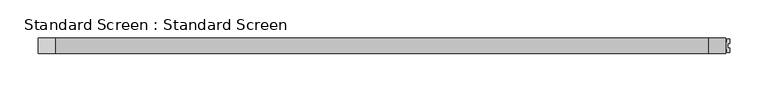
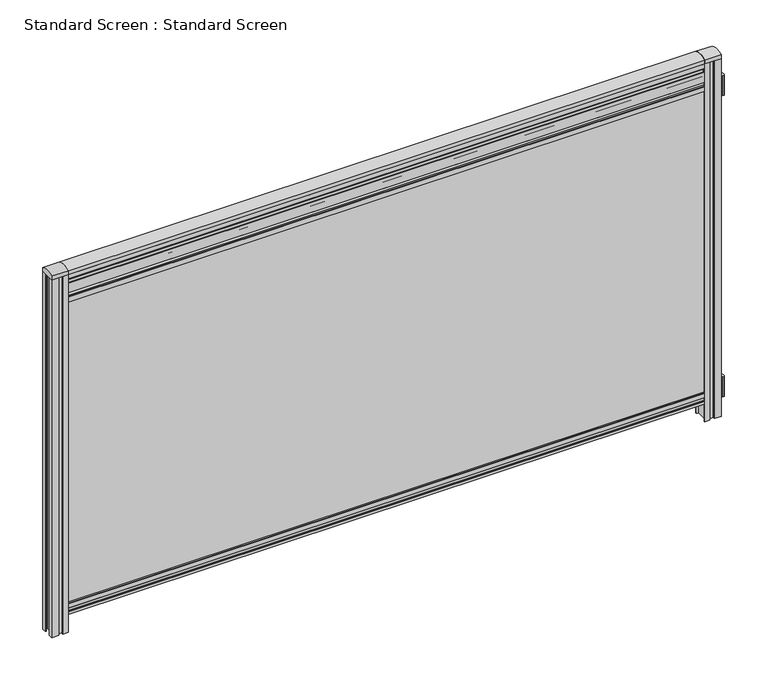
"""IFC4 building model written with IfcOpenShell, lengths in millimetres: furniture geometry, Standard Screen : Standard Screen."""

from ifc_helpers import new_model, si_unit, point, frame, frame_2d, origin, origin_with_axes, place, context, project, spatial, polyline, circle_curve, trimmed, segment, composite_curve, outline, extrude, source, transform, mapped, element, save


def standard_screen_standard_screen_f20f7902(model_context):
    return source(origin(), model_context, "Body", "SweptSolid", [
        extrude(outline(composite_curve([segment(polyline([(455.3250611, 7.9660188), (455.3250611, 3.0000008), (452.8561933, 3.0000008)]), True, "CONTINUOUS"), segment(trimmed(circle_curve(frame_2d((452.8561933, 2.4688337)), 0.5311671), [point((452.8561933, 3.0000008))], [point((452.3250262, 2.4688337))], True, "CARTESIAN"), True, "CONTINUOUS"), segment(polyline([(452.3250262, 2.4688337), (452.3250262, -2.4657623)]), True, "CONTINUOUS"), segment(trimmed(circle_curve(frame_2d((452.859263, -2.4657623)), 0.5342368), [point((452.3250262, -2.4657623))], [point((452.859263, -2.9999991))], True, "CARTESIAN"), True, "CONTINUOUS"), segment(polyline([(452.859263, -2.9999991), (455.3250611, -2.9999991), (455.3250611, -7.9537884)]), True, "CONTINUOUS"), segment(trimmed(circle_curve(frame_2d((454.3288505, -7.9537884)), 0.9962106), [point((455.3250611, -7.9537884))], [point((454.3288505, -8.949999))], False, "CARTESIAN"), True, "CONTINUOUS"), segment(polyline([(454.3288505, -8.949999), (452.5299708, -8.949999)]), True, "CONTINUOUS"), segment(trimmed(circle_curve(frame_2d((452.5299708, -7.9950275)), 0.9549715), [point((452.5299708, -8.949999))], [point((451.5749993, -7.9950275))], False, "CARTESIAN"), True, "CONTINUOUS"), segment(polyline([(451.5749993, -7.9950275), (451.5749993, -4.4499992), (448.6750309, -4.4499992), (448.6750309, -7.9556823)]), True, "CONTINUOUS"), segment(trimmed(circle_curve(frame_2d((447.6807142, -7.9556823)), 0.9943167), [point((448.6750309, -7.9556823))], [point((447.6807142, -8.949999))], False, "CARTESIAN"), True, "CONTINUOUS"), segment(polyline([(447.6807142, -8.949999), (445.8925746, -8.949999)]), True, "CONTINUOUS"), segment(trimmed(circle_curve(frame_2d((445.8925746, -7.9824663)), 0.9675328), [point((445.8925746, -8.949999))], [point((444.9250418, -7.9824663))], False, "CARTESIAN"), True, "CONTINUOUS"), segment(polyline([(444.9250418, -7.9824663), (444.9250418, -2.9999991), (447.4164727, -2.9999991)]), True, "CONTINUOUS"), segment(trimmed(circle_curve(frame_2d((447.4164727, -2.4914678)), 0.5085314), [point((447.4164727, -2.9999991))], [point((447.925004, -2.4914678))], True, "CARTESIAN"), True, "CONTINUOUS"), segment(polyline([(447.925004, -2.4914678), (447.925004, 2.4541047)]), True, "CONTINUOUS"), segment(trimmed(circle_curve(frame_2d((447.3791079, 2.4541047)), 0.5458961), [point((447.925004, 2.4541047))], [point((447.3791079, 3.0000008))], True, "CARTESIAN"), True, "CONTINUOUS"), segment(polyline([(447.3791079, 3.0000008), (444.9250418, 3.0000008), (444.9250418, 7.9753928)]), True, "CONTINUOUS"), segment(trimmed(circle_curve(frame_2d((445.8996501, 7.9753928)), 0.9746083), [point((444.9250418, 7.9753928))], [point((445.8996501, 8.950001))], False, "CARTESIAN"), True, "CONTINUOUS"), segment(polyline([(445.8996501, 8.950001), (447.7072587, 8.950001)]), True, "CONTINUOUS"), segment(trimmed(circle_curve(frame_2d((447.7072587, 7.9822288)), 0.9677722), [point((447.7072587, 8.950001))], [point((448.6750309, 7.9822288))], False, "CARTESIAN"), True, "CONTINUOUS"), segment(polyline([(448.6750309, 7.9822288), (448.6750309, 4.4500009), (451.5749993, 4.4500009), (451.5749993, 7.913217)]), True, "CONTINUOUS"), segment(trimmed(circle_curve(frame_2d((452.6117833, 7.913217)), 1.036784), [point((451.5749993, 7.913217))], [point((452.6117833, 8.950001))], False, "CARTESIAN"), True, "CONTINUOUS"), segment(polyline([(452.6117833, 8.950001), (454.3410788, 8.950001)]), True, "CONTINUOUS"), segment(trimmed(circle_curve(frame_2d((454.3410788, 7.9660188)), 0.9839823), [point((454.3410788, 8.950001))], [point((455.3250611, 7.9660188))], False, "CARTESIAN"), True, "CONTINUOUS")], self_intersect=False)), frame((0.0, 0.0, 454.3643446), z_axis=(0.0, 0.0, 1.0), x_axis=(1.0, 0.0, 0.0)), (0.0, 0.0, 1.0), 28.7499893),
        extrude(outline(composite_curve([segment(polyline([(455.3250611, 7.9660188), (455.3250611, 3.0000008), (452.8561933, 3.0000008)]), True, "CONTINUOUS"), segment(trimmed(circle_curve(frame_2d((452.8561933, 2.4688337)), 0.5311671), [point((452.8561933, 3.0000008))], [point((452.3250262, 2.4688337))], True, "CARTESIAN"), True, "CONTINUOUS"), segment(polyline([(452.3250262, 2.4688337), (452.3250262, -2.4657623)]), True, "CONTINUOUS"), segment(trimmed(circle_curve(frame_2d((452.859263, -2.4657623)), 0.5342368), [point((452.3250262, -2.4657623))], [point((452.859263, -2.9999991))], True, "CARTESIAN"), True, "CONTINUOUS"), segment(polyline([(452.859263, -2.9999991), (455.3250611, -2.9999991), (455.3250611, -7.9537884)]), True, "CONTINUOUS"), segment(trimmed(circle_curve(frame_2d((454.3288505, -7.9537884)), 0.9962106), [point((455.3250611, -7.9537884))], [point((454.3288505, -8.949999))], False, "CARTESIAN"), True, "CONTINUOUS"), segment(polyline([(454.3288505, -8.949999), (452.5299708, -8.949999)]), True, "CONTINUOUS"), segment(trimmed(circle_curve(frame_2d((452.5299708, -7.9950275)), 0.9549715), [point((452.5299708, -8.949999))], [point((451.5749993, -7.9950275))], False, "CARTESIAN"), True, "CONTINUOUS"), segment(polyline([(451.5749993, -7.9950275), (451.5749993, -4.4499992), (448.6750309, -4.4499992), (448.6750309, -7.9556823)]), True, "CONTINUOUS"), segment(trimmed(circle_curve(frame_2d((447.6807142, -7.9556823)), 0.9943167), [point((448.6750309, -7.9556823))], [point((447.6807142, -8.949999))], False, "CARTESIAN"), True, "CONTINUOUS"), segment(polyline([(447.6807142, -8.949999), (445.8925746, -8.949999)]), True, "CONTINUOUS"), segment(trimmed(circle_curve(frame_2d((445.8925746, -7.9824663)), 0.9675328), [point((445.8925746, -8.949999))], [point((444.9250418, -7.9824663))], False, "CARTESIAN"), True, "CONTINUOUS"), segment(polyline([(444.9250418, -7.9824663), (444.9250418, -2.9999991), (447.4164727, -2.9999991)]), True, "CONTINUOUS"), segment(trimmed(circle_curve(frame_2d((447.4164727, -2.4914678)), 0.5085314), [point((447.4164727, -2.9999991))], [point((447.925004, -2.4914678))], True, "CARTESIAN"), True, "CONTINUOUS"), segment(polyline([(447.925004, -2.4914678), (447.925004, 2.4541047)]), True, "CONTINUOUS"), segment(trimmed(circle_curve(frame_2d((447.3791079, 2.4541047)), 0.5458961), [point((447.925004, 2.4541047))], [point((447.3791079, 3.0000008))], True, "CARTESIAN"), True, "CONTINUOUS"), segment(polyline([(447.3791079, 3.0000008), (444.9250418, 3.0000008), (444.9250418, 7.9753928)]), True, "CONTINUOUS"), segment(trimmed(circle_curve(frame_2d((445.8996501, 7.9753928)), 0.9746083), [point((444.9250418, 7.9753928))], [point((445.8996501, 8.950001))], False, "CARTESIAN"), True, "CONTINUOUS"), segment(polyline([(445.8996501, 8.950001), (447.7072587, 8.950001)]), True, "CONTINUOUS"), segment(trimmed(circle_curve(frame_2d((447.7072587, 7.9822288)), 0.9677722), [point((447.7072587, 8.950001))], [point((448.6750309, 7.9822288))], False, "CARTESIAN"), True, "CONTINUOUS"), segment(polyline([(448.6750309, 7.9822288), (448.6750309, 4.4500009), (451.5749993, 4.4500009), (451.5749993, 7.913217)]), True, "CONTINUOUS"), segment(trimmed(circle_curve(frame_2d((452.6117833, 7.913217)), 1.036784), [point((451.5749993, 7.913217))], [point((452.6117833, 8.950001))], False, "CARTESIAN"), True, "CONTINUOUS"), segment(polyline([(452.6117833, 8.950001), (454.3410788, 8.950001)]), True, "CONTINUOUS"), segment(trimmed(circle_curve(frame_2d((454.3410788, 7.9660188)), 0.9839823), [point((454.3410788, 8.950001))], [point((455.3250611, 7.9660188))], False, "CARTESIAN"), True, "CONTINUOUS")], self_intersect=False)), frame((0.0, 0.0, 25.8857019), z_axis=(0.0, 0.0, 1.0), x_axis=(1.0, 0.0, 0.0)), (0.0, 0.0, 1.0), 28.7499893),
        extrude(outline(polyline([(2.9999997, 468.5000011), (7.4999998, 468.5000011), (7.4999998, 41.0000047), (1.4999993, 41.0000047), (1.4999993, 56.0000021), (-1.5000004, 56.0000021), (-1.5000004, 41.0000047), (-7.5000007, 41.0000047), (-7.5000007, 468.5000011), (-3.0000003, 468.5000011), (-3.0000003, 445.4786457), (2.9999997, 445.4786457), (2.9999997, 468.5000011)])), frame((-427.9999984, 0.0, 0.0), z_axis=(1.0, 0.0, 0.0), x_axis=(0.0, 1.0, 0.0)), (0.0, 0.0, 1.0), 855.9999968),
        extrude(outline(composite_curve([segment(polyline([(9.1499968, 33.5000241), (7.9499769, 33.5000241), (7.9499769, 36.8000362), (2.2528409, 36.8000362)]), True, "CONTINUOUS"), segment(trimmed(circle_curve(frame_2d((0.1077675, 34.9875299)), 2.8082947), [point((2.2528409, 36.8000362))], [point((2.8960112, 34.6525437))], False, "CARTESIAN"), True, "CONTINUOUS"), segment(trimmed(circle_curve(frame_2d((1.9633241, 32.8984143)), 1.9866744), [point((2.8960112, 34.6525437))], [point((3.9499985, 32.8984143))], False, "CARTESIAN"), True, "CONTINUOUS"), segment(polyline([(3.9499985, 32.8984143), (3.9499985, 29.5000616)]), True, "CONTINUOUS"), segment(trimmed(circle_curve(frame_2d((0.5724057, 27.6836344)), 3.8350412), [point((3.9499985, 29.5000616))], [point((3.7920505, 25.6000249))], False, "CARTESIAN"), True, "CONTINUOUS"), segment(polyline([(3.7920505, 25.6000249), (7.9499769, 25.6000249), (7.9499769, 28.0000351), (9.1499968, 28.0000351), (9.1499968, 24.5000216), (2.8499952, 24.5000216), (2.8499952, 26.3656486)]), True, "CONTINUOUS"), segment(trimmed(circle_curve(frame_2d((0.4891584, 27.6967971)), 2.7102595), [point((2.8499952, 26.3656486))], [point((2.7499786, 29.1915208))], True, "CARTESIAN"), True, "CONTINUOUS"), segment(polyline([(2.7499786, 29.1915208), (2.7499786, 33.0623263), (1.1043975, 33.8775106)]), True, "CONTINUOUS"), segment(trimmed(circle_curve(frame_2d((-9e-07, 35.0462662)), 1.6080067), [point((1.1043975, 33.8775106))], [point((-1.1043986, 33.8775101))], True, "CARTESIAN"), True, "CONTINUOUS"), segment(polyline([(-1.1043986, 33.8775101), (-2.7499786, 33.0623263), (-2.7499786, 29.1915208)]), True, "CONTINUOUS"), segment(trimmed(circle_curve(frame_2d((-0.4891584, 27.6967971)), 2.7102595), [point((-2.7499786, 29.1915208))], [point((-2.8499952, 26.3656486))], True, "CARTESIAN"), True, "CONTINUOUS"), segment(polyline([(-2.8499952, 26.3656486), (-2.8499952, 24.5000216), (-9.1499968, 24.5000216), (-9.1499968, 28.0000351), (-7.9499769, 28.0000351), (-7.9499769, 25.6000249), (-3.7920505, 25.6000249)]), True, "CONTINUOUS"), segment(trimmed(circle_curve(frame_2d((-0.5724057, 27.6836344)), 3.8350412), [point((-3.7920505, 25.6000249))], [point((-3.9499985, 29.5000616))], False, "CARTESIAN"), True, "CONTINUOUS"), segment(polyline([(-3.9499985, 29.5000616), (-3.9499985, 32.8984143)]), True, "CONTINUOUS"), segment(trimmed(circle_curve(frame_2d((-1.9633241, 32.8984143)), 1.9866744), [point((-3.9499985, 32.8984143))], [point((-2.8960112, 34.6525437))], False, "CARTESIAN"), True, "CONTINUOUS"), segment(trimmed(circle_curve(frame_2d((-0.1077675, 34.9875299)), 2.8082947), [point((-2.8960112, 34.6525437))], [point((-2.2528409, 36.8000362))], False, "CARTESIAN"), True, "CONTINUOUS"), segment(polyline([(-2.2528409, 36.8000362), (-7.9499769, 36.8000362), (-7.9499769, 33.5000241), (-9.1499968, 33.5000241), (-9.1499968, 39.2000441), (-7.9499769, 39.2000441), (-7.9499769, 38.0000265), (-0.9999878, 38.0000265), (-0.9999878, 49.9299473)]), True, "CONTINUOUS"), segment(trimmed(circle_curve(frame_2d((-9e-07, 49.3777063)), 1.1423415), [point((-0.9999878, 49.9299473))], [point((0.9999878, 49.9299442))], False, "CARTESIAN"), True, "CONTINUOUS"), segment(polyline([(0.9999878, 49.9299442), (0.9999878, 38.0000265), (7.9499769, 38.0000265), (7.9499769, 39.2000441), (9.1499968, 39.2000441), (9.1499968, 33.5000241)]), True, "CONTINUOUS")], self_intersect=False)), frame((-430.4999775, 0.0, 0.0), z_axis=(1.0, 0.0, 0.0), x_axis=(0.0, 1.0, 0.0)), (0.0, 0.0, 1.0), 860.9999551),
        extrude(outline(composite_curve([segment(polyline([(1.549986, 506.6831947), (1.549986, 509.0), (2.7499991, 509.0), (2.7499991, 507.0358452)]), True, "CONTINUOUS"), segment(trimmed(circle_curve(frame_2d((0.6713989, 505.7794875)), 2.4287884), [point((2.7499991, 507.0358452))], [point((2.57901, 504.2761469))], False, "CARTESIAN"), True, "CONTINUOUS"), segment(polyline([(2.57901, 504.2761469), (2.4052283, 502.6188286)]), True, "CONTINUOUS"), segment(trimmed(circle_curve(frame_2d((1.8024298, 502.5896911)), 0.6035023), [point((2.4052283, 502.6188286))], [point((1.2022181, 502.6526268))], False, "CARTESIAN"), True, "CONTINUOUS"), segment(polyline([(1.2022181, 502.6526268), (1.4276597, 504.8026409)]), True, "CONTINUOUS"), segment(trimmed(circle_curve(frame_2d((0.6111034, 505.8000117)), 1.2889968), [point((1.4276597, 504.8026409))], [point((1.549986, 506.6831947))], True, "CARTESIAN"), True, "CONTINUOUS")], self_intersect=False)), frame((-430.4999775, 0.0, 0.0), z_axis=(1.0, 0.0, 0.0), x_axis=(0.0, 1.0, 0.0)), (0.0, 0.0, 1.0), 860.9999551),
        extrude(outline(composite_curve([segment(trimmed(circle_curve(frame_2d((-0.6111034, 505.8000117)), 1.2889968), [point((-1.549986, 506.6831947))], [point((-1.4276597, 504.8026409))], True, "CARTESIAN"), True, "CONTINUOUS"), segment(polyline([(-1.4276597, 504.8026409), (-1.2022181, 502.6526268)]), True, "CONTINUOUS"), segment(trimmed(circle_curve(frame_2d((-1.8024298, 502.5896911)), 0.6035023), [point((-1.2022181, 502.6526268))], [point((-2.4052283, 502.6188286))], False, "CARTESIAN"), True, "CONTINUOUS"), segment(polyline([(-2.4052283, 502.6188286), (-2.57901, 504.2761469)]), True, "CONTINUOUS"), segment(trimmed(circle_curve(frame_2d((-0.6713989, 505.7794875)), 2.4287884), [point((-2.57901, 504.2761469))], [point((-2.7499991, 507.0358452))], False, "CARTESIAN"), True, "CONTINUOUS"), segment(polyline([(-2.7499991, 507.0358452), (-2.7499991, 509.0), (-1.549986, 509.0), (-1.549986, 506.6831947)]), True, "CONTINUOUS")], self_intersect=False)), frame((-430.4999775, 0.0, 0.0), z_axis=(1.0, 0.0, 0.0), x_axis=(0.0, 1.0, 0.0)), (0.0, 0.0, 1.0), 860.9999551),
        extrude(outline(composite_curve([segment(polyline([(7.8000076, 502.0000504), (7.8000076, 507.8000597), (4.5999997, 507.8000597), (4.5999997, 503.1642962), (3.3238569, 500.9538933), (2.4222393, 499.2511629)]), True, "CONTINUOUS"), segment(trimmed(circle_curve(frame_2d((0.0, 497.4942518)), 2.9923201), [point((2.4222393, 499.2511629))], [point((1.0260604, 494.683348))], False, "CARTESIAN"), True, "CONTINUOUS"), segment(polyline([(1.0260604, 494.683348), (1.0260604, 489.7500713), (7.8000076, 489.7500713), (7.8000076, 496.0000532), (9.0000082, 496.0000532), (9.0000082, 482.0000357), (7.8000076, 482.0000357), (7.8000076, 488.2500175), (1.0260604, 488.2500175), (1.0260604, 483.3191412)]), True, "CONTINUOUS"), segment(trimmed(circle_curve(frame_2d((0.0, 480.5073141)), 2.9931876), [point((1.0260604, 483.3191412))], [point((2.4222393, 478.748926))], False, "CARTESIAN"), True, "CONTINUOUS"), segment(polyline([(2.4222393, 478.748926), (3.3238569, 477.0461956), (4.5999997, 474.8357927), (4.5999997, 470.2000292), (7.8000076, 470.2000292), (7.8000076, 476.0000385), (9.0000082, 476.0000385), (9.0000082, 469.0000298), (3.3999991, 469.0000298), (3.3999991, 474.5143007), (2.5421924, 476.0000385), (1.7271089, 476.0000385), (1.1490657, 479.5358692)]), True, "CONTINUOUS"), segment(trimmed(circle_curve(frame_2d((0.0, 480.5074601)), 1.5047727), [point((1.1490657, 479.5358692))], [point((-1.1490657, 479.5358692))], True, "CARTESIAN"), True, "CONTINUOUS"), segment(polyline([(-1.1490657, 479.5358692), (-1.7271089, 476.0000385), (-2.5421924, 476.0000385), (-3.3999991, 474.5143007), (-3.3999991, 469.0000298), (-9.0000082, 469.0000298), (-9.0000082, 476.0000385), (-7.8000076, 476.0000385), (-7.8000076, 470.2000292), (-4.5999997, 470.2000292), (-4.5999997, 474.8357927), (-3.3238569, 477.0461956), (-2.4222393, 478.748926)]), True, "CONTINUOUS"), segment(trimmed(circle_curve(frame_2d((0.0, 480.5073141)), 2.9931876), [point((-2.4222393, 478.748926))], [point((-1.0000003, 483.3285144))], False, "CARTESIAN"), True, "CONTINUOUS"), segment(polyline([(-1.0000003, 483.3285144), (-1.0000003, 488.2500175), (-7.8000091, 488.2500175), (-7.8000091, 482.0000357), (-9.0000091, 482.0000357), (-9.0000091, 496.0000532), (-7.8000091, 496.0000532), (-7.8000091, 489.7500713), (-1.0000003, 489.7500713), (-1.0000003, 494.6739718)]), True, "CONTINUOUS"), segment(trimmed(circle_curve(frame_2d((0.0, 497.4942518)), 2.9923201), [point((-1.0000003, 494.6739718))], [point((-2.4222393, 499.2511629))], False, "CARTESIAN"), True, "CONTINUOUS"), segment(polyline([(-2.4222393, 499.2511629), (-3.3238569, 500.9538933), (-4.5999997, 503.1642962), (-4.5999997, 507.8000597), (-7.8000076, 507.8000597), (-7.8000076, 502.0000504), (-9.0000082, 502.0000504), (-9.0000082, 509.0), (-3.3999991, 509.0), (-3.3999991, 503.4857882), (-2.5421924, 502.0000504), (-1.7271089, 502.0000504), (-1.0656179, 498.5476448)]), True, "CONTINUOUS"), segment(trimmed(circle_curve(frame_2d((0.0, 497.4966596)), 1.4967002), [point((-1.0656179, 498.5476448))], [point((1.0656179, 498.5476448))], True, "CARTESIAN"), True, "CONTINUOUS"), segment(polyline([(1.0656179, 498.5476448), (1.7271089, 502.0000504), (2.5421924, 502.0000504), (3.3999991, 503.4857882), (3.3999991, 509.0), (9.0000082, 509.0), (9.0000082, 502.0000504), (7.8000076, 502.0000504)]), True, "CONTINUOUS")], self_intersect=False)), frame((-430.4999775, 0.0, 0.0), z_axis=(1.0, 0.0, 0.0), x_axis=(0.0, 1.0, 0.0)), (0.0, 0.0, 1.0), 860.9999551),
        extrude(outline(composite_curve([segment(polyline([(10.2500284, 514.328644), (10.2500284, 509.0), (-10.2500284, 509.0), (-10.2500284, 514.328644)]), True, "CONTINUOUS"), segment(trimmed(circle_curve(frame_2d((0.0, 495.9995742)), 21.0004258), [point((-10.2500284, 514.328644))], [point((10.2500284, 514.328644))], False, "CARTESIAN"), True, "CONTINUOUS")], self_intersect=False)), frame((-450.0, 0.0, 0.0), z_axis=(1.0, 0.0, 0.0), x_axis=(0.0, 1.0, 0.0)), (0.0, 0.0, 1.0), 22.0000016),
        extrude(outline(composite_curve([segment(polyline([(10.2500284, 514.328644), (10.2500284, 509.0), (-10.2500284, 509.0), (-10.2500284, 514.328644)]), True, "CONTINUOUS"), segment(trimmed(circle_curve(frame_2d((0.0, 495.9995742)), 21.0004258), [point((-10.2500284, 514.328644))], [point((10.2500284, 514.328644))], False, "CARTESIAN"), True, "CONTINUOUS")], self_intersect=False)), frame((427.9999984, 0.0, 0.0), z_axis=(1.0, 0.0, 0.0), x_axis=(0.0, 1.0, 0.0)), (0.0, 0.0, 1.0), 22.0000016),
        extrude(outline(composite_curve([segment(polyline([(-10.2500284, 509.0), (-10.2500284, 514.328644)]), True, "CONTINUOUS"), segment(trimmed(circle_curve(frame_2d((0.0, 495.9995742)), 21.0004258), [point((-10.2500284, 514.328644))], [point((10.2500284, 514.328644))], False, "CARTESIAN"), True, "CONTINUOUS"), segment(polyline([(10.2500284, 514.328644), (10.2500284, 509.0), (-10.2500284, 509.0)]), True, "CONTINUOUS")], self_intersect=False), holes=[composite_curve([segment(polyline([(-9.0499809, 510.2000586), (9.0499802, 510.2000586), (9.0499802, 513.6108242)]), True, "CONTINUOUS"), segment(trimmed(circle_curve(frame_2d((-4e-07, 495.9993192)), 19.8006883), [point((9.0499802, 513.6108242))], [point((-9.0499809, 513.6108242))], True, "CARTESIAN"), True, "CONTINUOUS"), segment(polyline([(-9.0499809, 513.6108242), (-9.0499809, 510.2000586)]), True, "CONTINUOUS")], self_intersect=False)]), frame((-427.9999984, 0.0, 0.0), z_axis=(1.0, 0.0, 0.0), x_axis=(0.0, 1.0, 0.0)), (0.0, 0.0, 1.0), 855.9999968),
        extrude(outline(polyline([(-443.5500127, 8.750011), (-440.950013, 8.750011), (-440.950013, 7.1000106), (-434.6500001, 7.1000106), (-434.6500001, 8.750011), (-432.0500123, 8.750011), (-432.0500123, 5.7500124), (-443.5500127, 5.7500124), (-443.5500127, 8.750011)])), origin_with_axes(), (0.0, 0.0, 1.0), 509.0),
        extrude(outline(polyline([(-443.5500127, -8.750011), (-443.5500127, -5.7500124), (-432.0500123, -5.7500124), (-432.0500123, -8.750011), (-434.6500001, -8.750011), (-434.6500001, -7.1000106), (-440.950013, -7.1000106), (-440.950013, -8.750011), (-443.5500127, -8.750011)])), origin_with_axes(), (0.0, 0.0, 1.0), 509.0),
        extrude(outline(polyline([(443.5500127, 8.750011), (443.5500127, 5.7500124), (432.0500123, 5.7500124), (432.0500123, 8.750011), (434.6500001, 8.750011), (434.6500001, 7.1000106), (440.950013, 7.1000106), (440.950013, 8.750011), (443.5500127, 8.750011)])), origin_with_axes(), (0.0, 0.0, 1.0), 509.0),
        extrude(outline(polyline([(443.5500127, -8.750011), (440.950013, -8.750011), (440.950013, -7.1000106), (434.6500001, -7.1000106), (434.6500001, -8.750011), (432.0500123, -8.750011), (432.0500123, -5.7500124), (443.5500127, -5.7500124), (443.5500127, -8.750011)])), origin_with_axes(), (0.0, 0.0, 1.0), 509.0),
        extrude(outline(polyline([(-450.0, 10.2500284), (-440.500003, 10.2500284), (-440.500003, 9.0499961), (-443.6000108, 9.0499961), (-443.6000108, 5.7500124), (-431.9999938, 5.7500124), (-431.9999938, 9.0499961), (-435.000014, 9.0499961), (-435.000014, 10.2500284), (-427.9999984, 10.2500284), (-427.9999984, 9.0499961), (-430.8000023, 9.0499961), (-430.8000023, -9.0499985), (-427.9999984, -9.0499985), (-427.9999984, -10.2500284), (-435.000014, -10.2500284), (-435.000014, -9.0499985), (-431.9999938, -9.0499985), (-431.9999938, -5.7500132), (-443.6000108, -5.7500132), (-443.6000108, -9.0499985), (-440.500003, -9.0499985), (-440.500003, -10.2500284), (-450.0, -10.2500284), (-450.0, -4.8000011), (-448.8000095, -4.8000011), (-448.8000095, -9.0499985), (-444.8000012, -9.0499985), (-444.8000012, 9.0499961), (-448.8000095, 9.0499961), (-448.8000095, 4.8), (-450.0, 4.8), (-450.0, 10.2500284)])), origin_with_axes(), (0.0, 0.0, 1.0), 509.0),
        extrude(outline(polyline([(450.0, 10.2500284), (450.0, 4.8), (448.8000095, 4.8), (448.8000095, 9.0499961), (444.8000012, 9.0499961), (444.8000012, -9.0499985), (448.8000095, -9.0499985), (448.8000095, -4.8000011), (450.0, -4.8000011), (450.0, -10.2500284), (440.500003, -10.2500284), (440.500003, -9.0499985), (443.6000108, -9.0499985), (443.6000108, -5.7500132), (431.9999938, -5.7500132), (431.9999938, -9.0499985), (435.000014, -9.0499985), (435.000014, -10.2500284), (427.9999984, -10.2500284), (427.9999984, -9.0499985), (430.800016, -9.0499985), (430.800016, 9.0499961), (427.9999984, 9.0499961), (427.9999984, 10.2500284), (435.000014, 10.2500284), (435.000014, 9.0499961), (431.9999938, 9.0499961), (431.9999938, 5.7500124), (443.6000108, 5.7500124), (443.6000108, 9.0499961), (440.500003, 9.0499961), (440.500003, 10.2500284), (450.0, 10.2500284)])), origin_with_axes(), (0.0, 0.0, 1.0), 509.0),
    ])


if __name__ == "__main__":
    model = new_model("IFC4")
    model_context = context("Model", 3, world=origin())
    ifc_project = project(units=[si_unit("LENGTHUNIT", "METRE", prefix="MILLI")], contexts=[model_context])
    site = spatial("IfcSite", under=ifc_project)
    building = spatial("IfcBuilding", under=site)
    placement = place(None, origin())
    standard_screen_standard_screen_shape = standard_screen_standard_screen_f20f7902(model_context)
    element("IfcFurniture", 1, ObjectType="Standard Screen : Standard Screen", at=placement, inside=building, context=model_context, shape_type="MappedRepresentation", body=[
        mapped(standard_screen_standard_screen_shape, transform((0.0, 0.0, 0.0), x_axis=(1.0, 0.0, 0.0), y_axis=(0.0, 1.0, 0.0), z_axis=(0.0, 0.0, 1.0))),
    ])
    save(model, "model.ifc")
